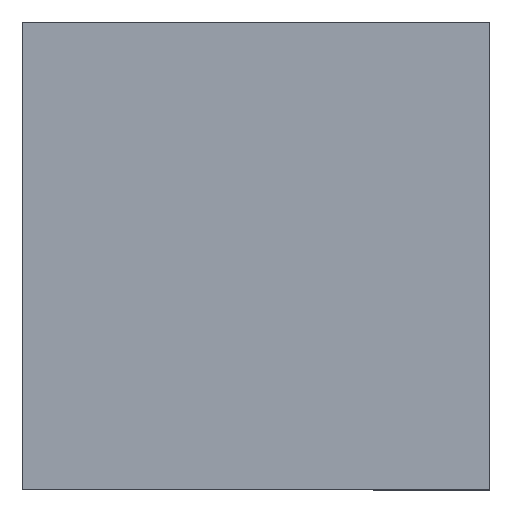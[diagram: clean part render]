
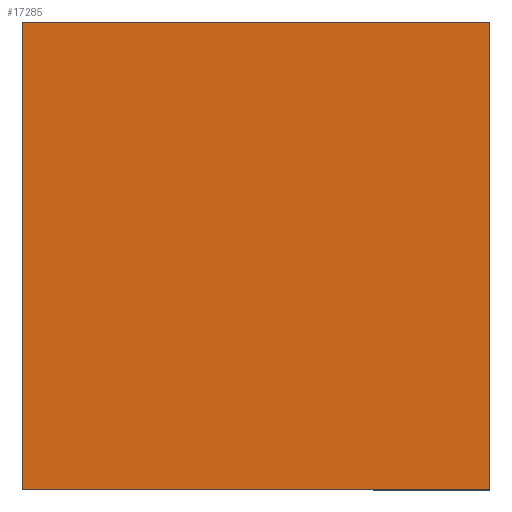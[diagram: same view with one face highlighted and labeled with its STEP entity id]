
A CAD part, top view. The second image highlights one B-rep face of the part: STEP entity #17285.
In plain terms, the highlighted planar face has unit normal (0, 0, 1).
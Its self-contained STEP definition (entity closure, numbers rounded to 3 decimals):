
#338 = VECTOR ( 'NONE', #15580, 1000. ) ;
#823 = DIRECTION ( 'NONE',  ( 0., 1., 0. ) ) ;
#847 = VERTEX_POINT ( 'NONE', #1408 ) ;
#1286 = VECTOR ( 'NONE', #19392, 1000. ) ;
#1408 = CARTESIAN_POINT ( 'NONE',  ( -10., 10., 1. ) ) ;
#1587 = DIRECTION ( 'NONE',  ( 0., 0., -1. ) ) ;
#2128 = LINE ( 'NONE', #18026, #1286 ) ;
#3545 = VERTEX_POINT ( 'NONE', #17037 ) ;
#3912 = ORIENTED_EDGE ( 'NONE', *, *, #17310, .T. ) ;
#4152 = LINE ( 'NONE', #19532, #5574 ) ;
#5574 = VECTOR ( 'NONE', #823, 1000. ) ;
#5618 = EDGE_CURVE ( 'NONE', #847, #9651, #2128, .T. ) ;
#6069 = DIRECTION ( 'NONE',  ( -1., 0., 0. ) ) ;
#6138 = EDGE_CURVE ( 'NONE', #3545, #16283, #4152, .T. ) ;
#9497 = PLANE ( 'NONE',  #17741 ) ;
#9651 = VERTEX_POINT ( 'NONE', #14183 ) ;
#9660 = ORIENTED_EDGE ( 'NONE', *, *, #5618, .T. ) ;
#10471 = ORIENTED_EDGE ( 'NONE', *, *, #12389, .T. ) ;
#11073 = DIRECTION ( 'NONE',  ( -1., 0., 0. ) ) ;
#11662 = LINE ( 'NONE', #20142, #338 ) ;
#12389 = EDGE_CURVE ( 'NONE', #9651, #3545, #11662, .T. ) ;
#12824 = FACE_OUTER_BOUND ( 'NONE', #14832, .T. ) ;
#13966 = LINE ( 'NONE', #20301, #16737 ) ;
#14183 = CARTESIAN_POINT ( 'NONE',  ( -10., -10., 1. ) ) ;
#14832 = EDGE_LOOP ( 'NONE', ( #14855, #3912, #9660, #10471 ) ) ;
#14855 = ORIENTED_EDGE ( 'NONE', *, *, #6138, .T. ) ;
#15580 = DIRECTION ( 'NONE',  ( 1., 0., 0. ) ) ;
#15831 = CARTESIAN_POINT ( 'NONE',  ( 0., 0., 1. ) ) ;
#16283 = VERTEX_POINT ( 'NONE', #17828 ) ;
#16737 = VECTOR ( 'NONE', #6069, 1000. ) ;
#17037 = CARTESIAN_POINT ( 'NONE',  ( 10., -10., 1. ) ) ;
#17285 = ADVANCED_FACE ( 'NONE', ( #12824 ), #9497, .F. ) ;
#17310 = EDGE_CURVE ( 'NONE', #16283, #847, #13966, .T. ) ;
#17741 = AXIS2_PLACEMENT_3D ( 'NONE', #15831, #1587, #11073 ) ;
#17828 = CARTESIAN_POINT ( 'NONE',  ( 10., 10., 1. ) ) ;
#18026 = CARTESIAN_POINT ( 'NONE',  ( -10., -10., 1. ) ) ;
#19392 = DIRECTION ( 'NONE',  ( 0., -1., 0. ) ) ;
#19532 = CARTESIAN_POINT ( 'NONE',  ( 10., -10., 1. ) ) ;
#20142 = CARTESIAN_POINT ( 'NONE',  ( -10., -10., 1. ) ) ;
#20301 = CARTESIAN_POINT ( 'NONE',  ( -10., 10., 1. ) ) ;
